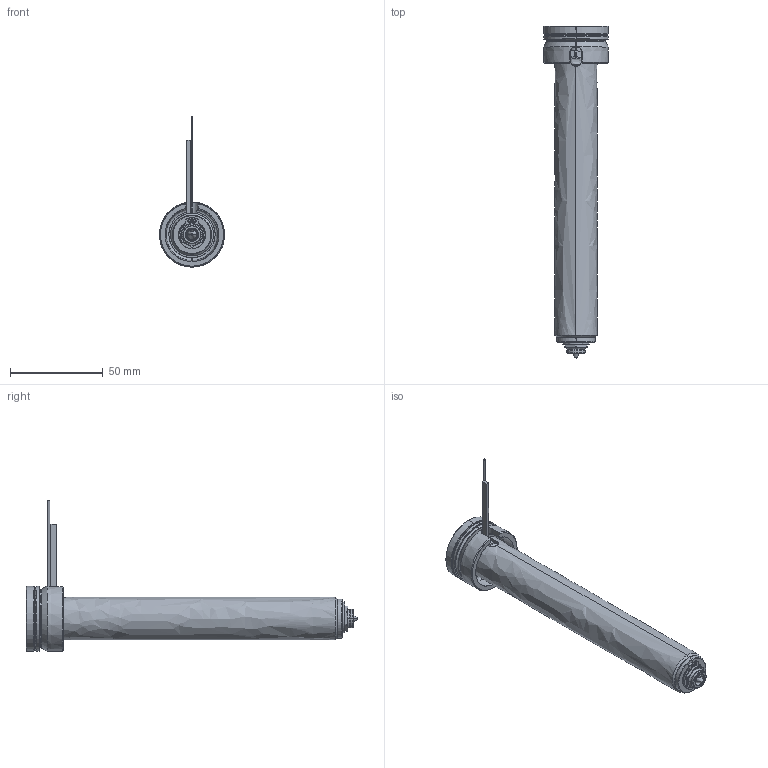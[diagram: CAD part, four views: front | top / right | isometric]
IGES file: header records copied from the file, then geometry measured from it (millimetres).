
Start section: SolidWorks IGES file using analytic representation for surfaces
Global section: file name: C:\Documents and Settings\ws-20\Desktop\TEM\UGEP3054-S-A-1 [Øf-1.10 ØC-6.0].IGS; native system: SolidWorks 2012; preprocessor: SolidWorks 2012; author: ws-20; date: 120402.112604; units: millimetre
Bounding box: 35 x 178.8 x 80.9 mm (x, y, z)
Surface area: 26138 mm2 (no closed solid volume)
Topology: 0 solids, 0 shells, 135 faces, 2056 edges, 2056 vertices
Faces by surface type: revolution 83, bspline 52
